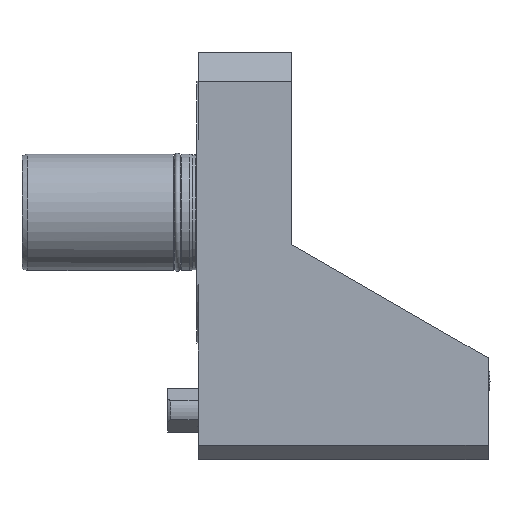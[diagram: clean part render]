
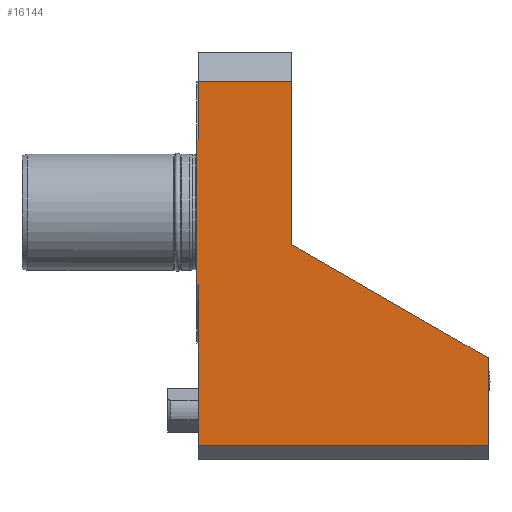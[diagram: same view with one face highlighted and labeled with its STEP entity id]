
A CAD part, front view. The second image highlights one B-rep face of the part: STEP entity #16144.
In plain terms, the highlighted planar face has unit normal (0, -1, 0).
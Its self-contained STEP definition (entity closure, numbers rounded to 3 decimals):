
#298=VECTOR('',#10926,1.);
#310=VECTOR('',#10946,1.);
#320=VECTOR('',#10968,1.);
#326=VECTOR('',#10980,1.);
#328=VECTOR('',#10984,1.);
#329=VECTOR('',#10985,1.);
#330=VECTOR('',#10986,1.);
#331=VECTOR('',#10987,1.);
#332=VECTOR('',#10988,1.);
#333=VECTOR('',#10989,1.);
#564=LINE('',#12229,#298);
#576=LINE('',#12258,#310);
#586=LINE('',#12285,#320);
#592=LINE('',#12299,#326);
#594=LINE('',#12303,#328);
#595=LINE('',#12305,#329);
#596=LINE('',#12307,#330);
#597=LINE('',#12308,#331);
#598=LINE('',#12309,#332);
#599=LINE('',#12310,#333);
#4970=ORIENTED_EDGE('',*,*,#6294,.T.);
#4971=ORIENTED_EDGE('',*,*,#6302,.F.);
#4972=ORIENTED_EDGE('',*,*,#6304,.F.);
#4973=ORIENTED_EDGE('',*,*,#6305,.T.);
#4974=ORIENTED_EDGE('',*,*,#6306,.F.);
#4975=ORIENTED_EDGE('',*,*,#6307,.T.);
#4976=ORIENTED_EDGE('',*,*,#6266,.T.);
#4977=ORIENTED_EDGE('',*,*,#6308,.T.);
#4978=ORIENTED_EDGE('',*,*,#6280,.F.);
#4979=ORIENTED_EDGE('',*,*,#6309,.F.);
#5746=VERTEX_POINT('',#12226);
#5747=VERTEX_POINT('',#12228);
#5759=VERTEX_POINT('',#12255);
#5760=VERTEX_POINT('',#12257);
#5770=VERTEX_POINT('',#12282);
#5771=VERTEX_POINT('',#12284);
#5776=VERTEX_POINT('',#12298);
#5777=VERTEX_POINT('',#12302);
#5778=VERTEX_POINT('',#12304);
#5779=VERTEX_POINT('',#12306);
#6266=EDGE_CURVE('',#5747,#5746,#564,.T.);
#6280=EDGE_CURVE('',#5759,#5760,#576,.T.);
#6294=EDGE_CURVE('',#5771,#5770,#586,.T.);
#6302=EDGE_CURVE('',#5776,#5770,#592,.T.);
#6304=EDGE_CURVE('',#5777,#5776,#594,.T.);
#6305=EDGE_CURVE('',#5777,#5778,#595,.T.);
#6306=EDGE_CURVE('',#5779,#5778,#596,.T.);
#6307=EDGE_CURVE('',#5779,#5747,#597,.T.);
#6308=EDGE_CURVE('',#5746,#5760,#598,.T.);
#6309=EDGE_CURVE('',#5771,#5759,#599,.T.);
#6678=EDGE_LOOP('',(#4970,#4971,#4972,#4973,#4974,#4975,#4976,#4977,#4978,
#4979));
#7017=FACE_BOUND('',#6678,.T.);
#7247=PLANE('',#15807);
#10926=DIRECTION('',(49.749,0.,0.));
#10946=DIRECTION('',(-55.125,0.,0.));
#10968=DIRECTION('',(-30.,0.,0.));
#10980=DIRECTION('',(38.971,0.,67.5));
#10982=DIRECTION('',(0.,-1.,0.));
#10983=DIRECTION('',(-1.,0.,0.));
#10984=DIRECTION('',(56.029,0.,0.));
#10985=DIRECTION('',(0.,0.,-32.));
#10986=DIRECTION('',(-20.125,0.,0.));
#10987=DIRECTION('',(0.,0.,-0.5));
#10988=DIRECTION('',(0.,0.,0.5));
#10989=DIRECTION('',(0.,0.,-99.5));
#12226=CARTESIAN_POINT('',(24.875,-37.5,60.));
#12228=CARTESIAN_POINT('',(-24.875,-37.5,60.));
#12229=CARTESIAN_POINT('',(-24.875,-37.5,60.));
#12255=CARTESIAN_POINT('',(80.,-37.5,60.5));
#12257=CARTESIAN_POINT('',(24.875,-37.5,60.5));
#12258=CARTESIAN_POINT('',(80.,-37.5,60.5));
#12282=CARTESIAN_POINT('',(50.,-37.5,160.));
#12284=CARTESIAN_POINT('',(80.,-37.5,160.));
#12285=CARTESIAN_POINT('',(80.,-37.5,160.));
#12298=CARTESIAN_POINT('',(11.029,-37.5,92.5));
#12299=CARTESIAN_POINT('',(11.029,-37.5,92.5));
#12301=CARTESIAN_POINT('',(80.,-37.5,160.));
#12302=CARTESIAN_POINT('',(-45.,-37.5,92.5));
#12303=CARTESIAN_POINT('',(-45.,-37.5,92.5));
#12304=CARTESIAN_POINT('',(-45.,-37.5,60.5));
#12305=CARTESIAN_POINT('',(-45.,-37.5,92.5));
#12306=CARTESIAN_POINT('',(-24.875,-37.5,60.5));
#12307=CARTESIAN_POINT('',(-24.875,-37.5,60.5));
#12308=CARTESIAN_POINT('',(-24.875,-37.5,60.5));
#12309=CARTESIAN_POINT('',(24.875,-37.5,60.));
#12310=CARTESIAN_POINT('',(80.,-37.5,160.));
#15807=AXIS2_PLACEMENT_3D('',#12301,#10982,#10983);
#16144=ADVANCED_FACE('',(#7017),#7247,.T.);
